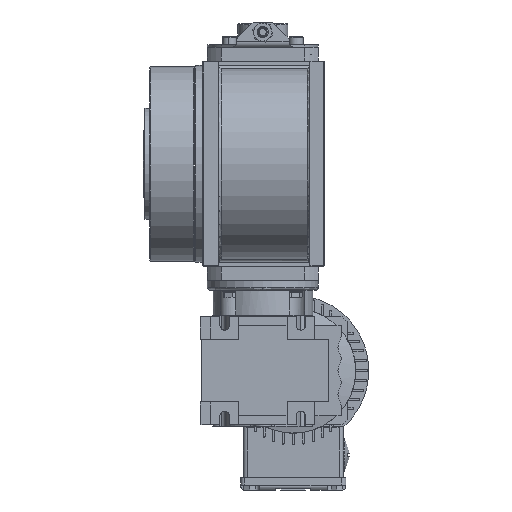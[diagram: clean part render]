
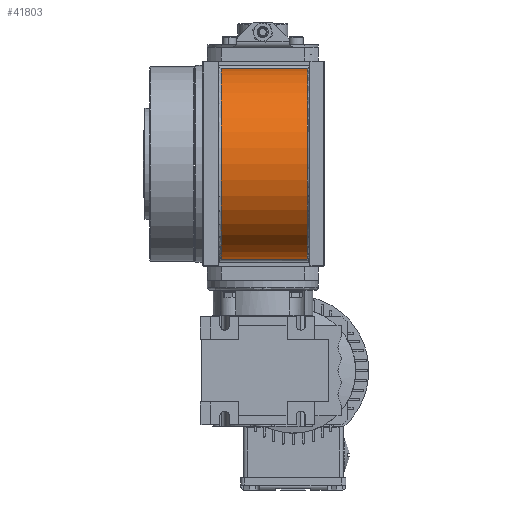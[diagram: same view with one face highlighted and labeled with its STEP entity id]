
A CAD part, left-side view. The second image highlights one B-rep face of the part: STEP entity #41803.
In plain terms, the highlighted cylindrical face has radius 69 mm (diameter 138 mm), a partial arc.
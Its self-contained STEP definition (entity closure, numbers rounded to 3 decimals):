
#874 = CYLINDRICAL_SURFACE ( 'NONE', #58155, 69. ) ;
#969 = EDGE_CURVE ( 'NONE', #73680, #27937, #53483, .T. ) ;
#3065 = EDGE_CURVE ( 'NONE', #27937, #52751, #50007, .T. ) ;
#5325 = DIRECTION ( 'NONE',  ( 0., -1., 0. ) ) ;
#6523 = FACE_OUTER_BOUND ( 'NONE', #35222, .T. ) ;
#8386 = DIRECTION ( 'NONE',  ( 0., 0., -1. ) ) ;
#9072 = ORIENTED_EDGE ( 'NONE', *, *, #969, .T. ) ;
#14103 = EDGE_CURVE ( 'NONE', #52751, #48126, #53006, .T. ) ;
#17201 = CARTESIAN_POINT ( 'NONE',  ( -42.511, -53.238, -28.281 ) ) ;
#20561 = AXIS2_PLACEMENT_3D ( 'NONE', #70583, #41948, #36286 ) ;
#22580 = LINE ( 'NONE', #39225, #53912 ) ;
#26972 = CARTESIAN_POINT ( 'NONE',  ( -42.511, 8.762, 109.5 ) ) ;
#27937 = VERTEX_POINT ( 'NONE', #61408 ) ;
#32706 = CARTESIAN_POINT ( 'NONE',  ( -42.511, 10.762, 109.5 ) ) ;
#32794 = CARTESIAN_POINT ( 'NONE',  ( -38.624, 10.762, 40.609 ) ) ;
#35222 = EDGE_LOOP ( 'NONE', ( #9072, #44767, #65510, #61061 ) ) ;
#36286 = DIRECTION ( 'NONE',  ( 0., 0., 1. ) ) ;
#39225 = CARTESIAN_POINT ( 'NONE',  ( -42.511, 10.762, -28.281 ) ) ;
#39641 = CARTESIAN_POINT ( 'NONE',  ( -38.624, -53.238, 40.609 ) ) ;
#41803 = ADVANCED_FACE ( 'NONE', ( #6523 ), #874, .T. ) ;
#41948 = DIRECTION ( 'NONE',  ( 0., -1., 0. ) ) ;
#44767 = ORIENTED_EDGE ( 'NONE', *, *, #3065, .T. ) ;
#48126 = VERTEX_POINT ( 'NONE', #62132 ) ;
#49727 = DIRECTION ( 'NONE',  ( 0., -1., 0. ) ) ;
#50007 = LINE ( 'NONE', #32706, #63248 ) ;
#51250 = DIRECTION ( 'NONE',  ( 0., 1., 0. ) ) ;
#52751 = VERTEX_POINT ( 'NONE', #26972 ) ;
#53006 = CIRCLE ( 'NONE', #20561, 69. ) ;
#53483 = CIRCLE ( 'NONE', #67993, 69. ) ;
#53912 = VECTOR ( 'NONE', #5325, 1000. ) ;
#55273 = DIRECTION ( 'NONE',  ( 0., 1., 0. ) ) ;
#58155 = AXIS2_PLACEMENT_3D ( 'NONE', #32794, #49727, #8386 ) ;
#61061 = ORIENTED_EDGE ( 'NONE', *, *, #72067, .T. ) ;
#61408 = CARTESIAN_POINT ( 'NONE',  ( -42.511, -53.238, 109.5 ) ) ;
#62132 = CARTESIAN_POINT ( 'NONE',  ( -42.511, 8.762, -28.281 ) ) ;
#63248 = VECTOR ( 'NONE', #55273, 1000. ) ;
#63686 = DIRECTION ( 'NONE',  ( 0., 0., 1. ) ) ;
#65510 = ORIENTED_EDGE ( 'NONE', *, *, #14103, .T. ) ;
#67993 = AXIS2_PLACEMENT_3D ( 'NONE', #39641, #51250, #63686 ) ;
#70583 = CARTESIAN_POINT ( 'NONE',  ( -38.624, 8.762, 40.609 ) ) ;
#72067 = EDGE_CURVE ( 'NONE', #48126, #73680, #22580, .T. ) ;
#73680 = VERTEX_POINT ( 'NONE', #17201 ) ;
